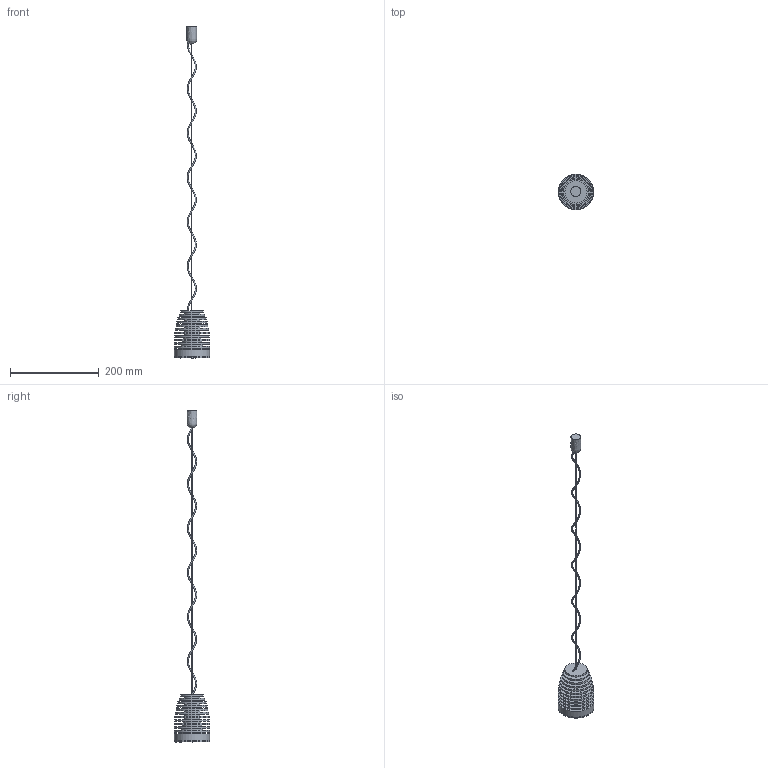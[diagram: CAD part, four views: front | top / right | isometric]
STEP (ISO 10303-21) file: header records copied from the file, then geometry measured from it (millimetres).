
FILE_DESCRIPTION(/* description */ (''),/* implementation_level */ '2;1');
FILE_NAME(/* name */ 'C:/Users/elena/Desktop/Titti Pendant A.step',/* time_stamp */ '2020-07-01T13:23:01+02:00',/* author */ (''),/* organization */ (''),/* preprocessor_version */ 'ST-DEVELOPER v18.1',/* originating_system */ 'Autodesk Translation Framework v9.3.0.1241',/* authorisation */ '');
FILE_SCHEMA (('AUTOMOTIVE_DESIGN { 1 0 10303 214 3 1 1 }'));
Length unit declared in the file: millimetre
Products named in the file (1): (Unsaved)
Bounding box: 80 x 80 x 747.75 mm (x, y, z)
Volume: 309899.6 mm3; surface area: 115038.1 mm2
Topology: 5 solids, 7 shells, 70 faces, 128 edges, 71 vertices
Faces by surface type: plane 35, cylinder 32, bspline 2, cone 1
Full cylindrical faces by diameter (mm): 1 x1, 3 x4, 38 x7, 40 x1, 44 x1, 47 x1, 50 x4, 57.09 x1, 63.112 x1, 66.5 x1, 67.936 x1, 71.788 x1, 74.809 x1, 77.09 x1, 78.693 x1, 79.656 x1, 80 x4
Entity records: 4585 total; most frequent: CARTESIAN_POINT 3074, DIRECTION 338, ORIENTED_EDGE 263, AXIS2_PLACEMENT_3D 139, EDGE_CURVE 132, EDGE_LOOP 82, VERTEX_POINT 77, FACE_OUTER_BOUND 70
